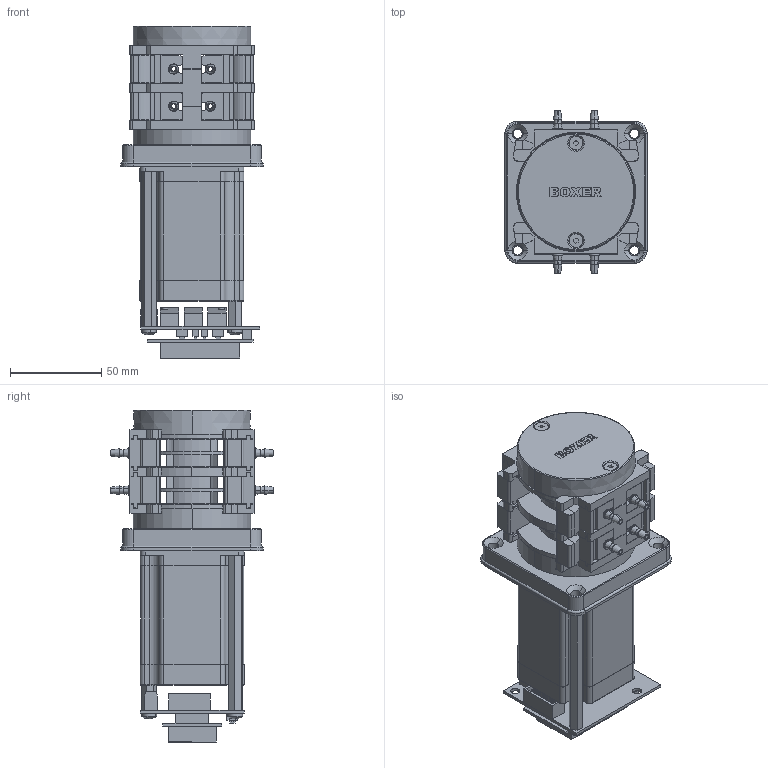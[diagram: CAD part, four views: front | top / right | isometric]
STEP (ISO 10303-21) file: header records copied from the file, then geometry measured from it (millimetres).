
FILE_DESCRIPTION (( 'STEP AP203' ), '1' );
FILE_NAME ('6342.105.STEP', '2018-11-17T18:48:15', ( '' ), ( '' ), 'SwSTEP 2.0', 'SolidWorks 2015', '' );
FILE_SCHEMA (( 'CONFIG_CONTROL_DESIGN' ));
Length unit declared in the file: millimetre
Products named in the file (1): 6342.105
Bounding box: 78 x 89.5 x 182.06 mm (x, y, z)
Surface area: 100376.5 mm2 (no closed solid volume)
Topology: 0 solids, 66 shells, 1021 faces, 3652 edges, 2608 vertices
Faces by surface type: plane 638, cylinder 259, cone 58, torus 45, bspline 17, sphere 4
Entity records: 40163 total; most frequent: CARTESIAN_POINT 8670, DIRECTION 6663, ORIENTED_EDGE 5844, EDGE_CURVE 3652, VERTEX_POINT 2608, VECTOR 2485, LINE 2485, AXIS2_PLACEMENT_3D 2089
